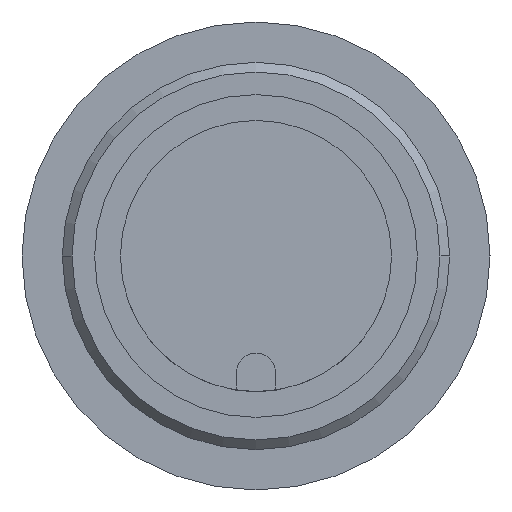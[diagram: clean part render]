
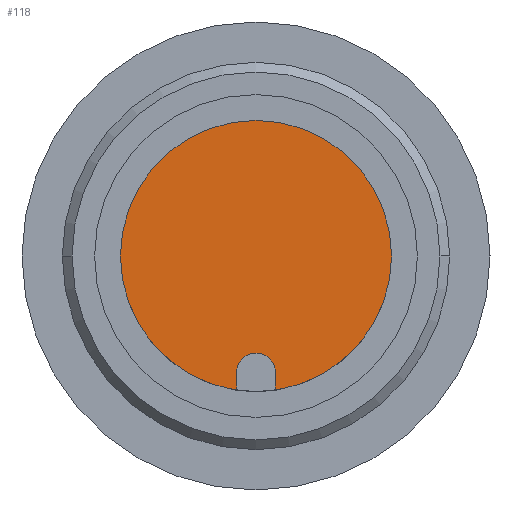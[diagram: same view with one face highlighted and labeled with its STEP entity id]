
A CAD part, left-side view. The second image highlights one B-rep face of the part: STEP entity #118.
In plain terms, the highlighted planar face has unit normal (-1, 0, 0).
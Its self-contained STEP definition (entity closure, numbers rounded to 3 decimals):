
#118 = ADVANCED_FACE( '', ( #255 ), #256, .T. );
#255 = FACE_OUTER_BOUND( '', #448, .T. );
#256 = PLANE( '', #449 );
#448 = EDGE_LOOP( '', ( #868, #869, #870, #871, #872, #873 ) );
#449 = AXIS2_PLACEMENT_3D( '', #874, #875, #876 );
#868 = ORIENTED_EDGE( '', *, *, #1340, .T. );
#869 = ORIENTED_EDGE( '', *, *, #1350, .T. );
#870 = ORIENTED_EDGE( '', *, *, #1347, .T. );
#871 = ORIENTED_EDGE( '', *, *, #1351, .T. );
#872 = ORIENTED_EDGE( '', *, *, #1221, .T. );
#873 = ORIENTED_EDGE( '', *, *, #1352, .T. );
#874 = CARTESIAN_POINT( '', ( -49., 2.1, 0. ) );
#875 = DIRECTION( '', ( -1., 0., 0. ) );
#876 = DIRECTION( '', ( 0., 1., 0. ) );
#1221 = EDGE_CURVE( '', #1424, #1421, #1425, .T. );
#1340 = EDGE_CURVE( '', #1638, #1639, #1640, .T. );
#1347 = EDGE_CURVE( '', #1651, #1652, #1653, .T. );
#1350 = EDGE_CURVE( '', #1639, #1651, #1656, .T. );
#1351 = EDGE_CURVE( '', #1652, #1424, #1657, .T. );
#1352 = EDGE_CURVE( '', #1421, #1638, #1658, .T. );
#1421 = VERTEX_POINT( '', #1751 );
#1424 = VERTEX_POINT( '', #1755 );
#1425 = CIRCLE( '', #1756, 4.2 );
#1638 = VERTEX_POINT( '', #2048 );
#1639 = VERTEX_POINT( '', #2049 );
#1640 = LINE( '', #2050, #2051 );
#1651 = VERTEX_POINT( '', #2066 );
#1652 = VERTEX_POINT( '', #2067 );
#1653 = LINE( '', #2068, #2069 );
#1656 = CIRCLE( '', #2074, 0.6 );
#1657 = CIRCLE( '', #2075, 4.2 );
#1658 = CIRCLE( '', #2076, 4.2 );
#1751 = CARTESIAN_POINT( '', ( -49., 4.2, 0. ) );
#1755 = CARTESIAN_POINT( '', ( -49., -4.2, 0. ) );
#1756 = AXIS2_PLACEMENT_3D( '', #2276, #2277, #2278 );
#2048 = CARTESIAN_POINT( '', ( -49., 0.6, -4.157 ) );
#2049 = CARTESIAN_POINT( '', ( -49., 0.6, -3.607 ) );
#2050 = CARTESIAN_POINT( '', ( -49., 0.6, -1.804 ) );
#2051 = VECTOR( '', #2505, 1. );
#2066 = CARTESIAN_POINT( '', ( -49., -0.6, -3.607 ) );
#2067 = CARTESIAN_POINT( '', ( -49., -0.6, -4.157 ) );
#2068 = CARTESIAN_POINT( '', ( -49., -0.6, -2.104 ) );
#2069 = VECTOR( '', #2516, 1. );
#2074 = AXIS2_PLACEMENT_3D( '', #2519, #2520, #2521 );
#2075 = AXIS2_PLACEMENT_3D( '', #2522, #2523, #2524 );
#2076 = AXIS2_PLACEMENT_3D( '', #2525, #2526, #2527 );
#2276 = CARTESIAN_POINT( '', ( -49., 0., 0. ) );
#2277 = DIRECTION( '', ( -1., 0., 0. ) );
#2278 = DIRECTION( '', ( 0., 1., 0. ) );
#2505 = DIRECTION( '', ( 0., 0., 1. ) );
#2516 = DIRECTION( '', ( 0., 0., -1. ) );
#2519 = CARTESIAN_POINT( '', ( -49., 0., -3.607 ) );
#2520 = DIRECTION( '', ( 1., 0., 0. ) );
#2521 = DIRECTION( '', ( 0., 1., 0. ) );
#2522 = CARTESIAN_POINT( '', ( -49., 0., 0. ) );
#2523 = DIRECTION( '', ( -1., 0., 0. ) );
#2524 = DIRECTION( '', ( 0., 1., 0. ) );
#2525 = CARTESIAN_POINT( '', ( -49., 0., 0. ) );
#2526 = DIRECTION( '', ( -1., 0., 0. ) );
#2527 = DIRECTION( '', ( 0., 1., 0. ) );
